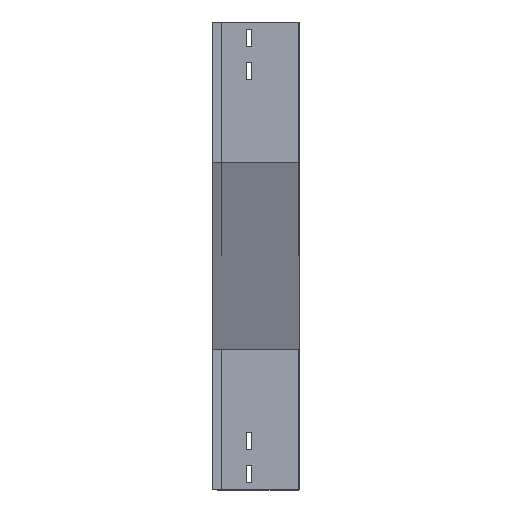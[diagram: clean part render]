
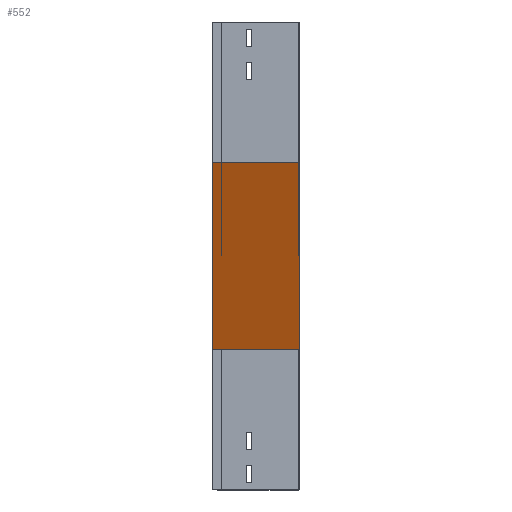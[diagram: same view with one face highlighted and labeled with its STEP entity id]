
A CAD part, left-side view. The second image highlights one B-rep face of the part: STEP entity #552.
In plain terms, the highlighted planar face has unit normal (-0.923, 0, -0.385).
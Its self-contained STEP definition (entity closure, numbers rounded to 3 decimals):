
#28 = VERTEX_POINT ( 'NONE', #2462 ) ;
#29 = DIRECTION ( 'NONE',  ( 0.385, 0., -0.923 ) ) ;
#49 = LINE ( 'NONE', #1178, #1436 ) ;
#540 = LINE ( 'NONE', #1641, #3480 ) ;
#552 = ADVANCED_FACE ( 'NONE', ( #2241 ), #1646, .F. ) ;
#758 = CARTESIAN_POINT ( 'NONE',  ( 100., 0., -420. ) ) ;
#767 = ORIENTED_EDGE ( 'NONE', *, *, #2846, .F. ) ;
#948 = DIRECTION ( 'NONE',  ( 0., -1., 0. ) ) ;
#975 = EDGE_CURVE ( 'NONE', #3380, #2876, #540, .T. ) ;
#1178 = CARTESIAN_POINT ( 'NONE',  ( 0., 0., -180. ) ) ;
#1186 = LINE ( 'NONE', #2848, #2034 ) ;
#1247 = CARTESIAN_POINT ( 'NONE',  ( 100., 112.5, -420. ) ) ;
#1358 = CARTESIAN_POINT ( 'NONE',  ( 0., 0., -180. ) ) ;
#1386 = DIRECTION ( 'NONE',  ( 0.923, 0., 0.385 ) ) ;
#1436 = VECTOR ( 'NONE', #29, 1000. ) ;
#1490 = EDGE_CURVE ( 'NONE', #2979, #3380, #49, .T. ) ;
#1493 = ORIENTED_EDGE ( 'NONE', *, *, #3230, .T. ) ;
#1641 = CARTESIAN_POINT ( 'NONE',  ( 100., 0., -420. ) ) ;
#1646 = PLANE ( 'NONE',  #1726 ) ;
#1673 = DIRECTION ( 'NONE',  ( 0., 1., 0. ) ) ;
#1726 = AXIS2_PLACEMENT_3D ( 'NONE', #2751, #1386, #3590 ) ;
#1975 = ORIENTED_EDGE ( 'NONE', *, *, #1490, .F. ) ;
#2034 = VECTOR ( 'NONE', #948, 1000. ) ;
#2195 = LINE ( 'NONE', #3310, #3091 ) ;
#2214 = DIRECTION ( 'NONE',  ( 0.385, 0., -0.923 ) ) ;
#2241 = FACE_OUTER_BOUND ( 'NONE', #3150, .T. ) ;
#2251 = ORIENTED_EDGE ( 'NONE', *, *, #975, .F. ) ;
#2462 = CARTESIAN_POINT ( 'NONE',  ( 0., 112.5, -180. ) ) ;
#2751 = CARTESIAN_POINT ( 'NONE',  ( 0., 0., -180. ) ) ;
#2846 = EDGE_CURVE ( 'NONE', #28, #2979, #1186, .T. ) ;
#2848 = CARTESIAN_POINT ( 'NONE',  ( 0., 0., -180. ) ) ;
#2876 = VERTEX_POINT ( 'NONE', #1247 ) ;
#2979 = VERTEX_POINT ( 'NONE', #1358 ) ;
#3091 = VECTOR ( 'NONE', #2214, 1000. ) ;
#3150 = EDGE_LOOP ( 'NONE', ( #1975, #767, #1493, #2251 ) ) ;
#3230 = EDGE_CURVE ( 'NONE', #28, #2876, #2195, .T. ) ;
#3310 = CARTESIAN_POINT ( 'NONE',  ( 0., 112.5, -180. ) ) ;
#3380 = VERTEX_POINT ( 'NONE', #758 ) ;
#3480 = VECTOR ( 'NONE', #1673, 1000. ) ;
#3590 = DIRECTION ( 'NONE',  ( 0.385, 0., -0.923 ) ) ;
